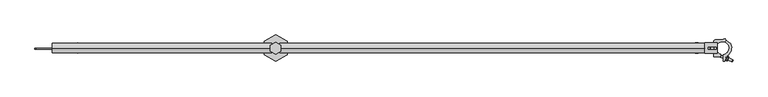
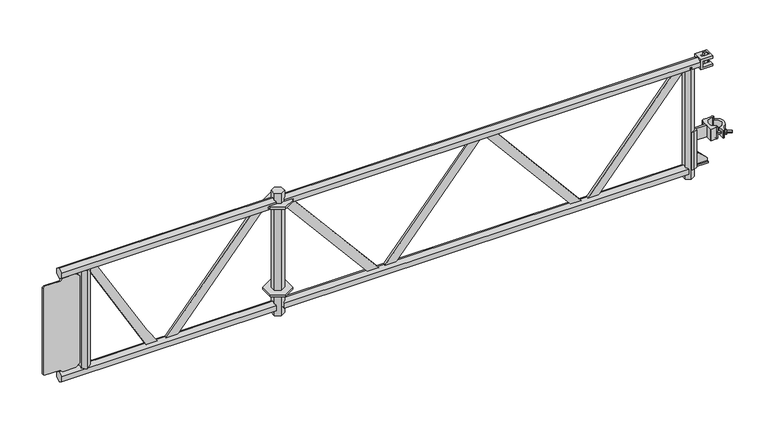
"""IFC4 building model written with IfcOpenShell, lengths in millimetres: proxy geometry, アルバトロスAK4スパン梁枠短ピン付_軽 : アルバトロスAK4スパン梁枠短ピン付_軽."""

from ifc_helpers import new_model, si_unit, point, frame, frame_2d, origin, place, context, project, spatial, polyline, circle_curve, ellipse_curve, trimmed, segment, composite_curve, outline, extrude, faceted_brep, source, transform, mapped, element, save
from ifc_brep_helpers import plane_surface, cylinder_surface, revolved_surface, advanced_brep


def generic_models_1a670a13(model_context):
    return source(origin(), model_context, "Body", "SolidModel", [
        extrude(outline(polyline([(5522.8993464, -26.5), (5477.0, -53.0), (5431.1006536, -26.5), (5431.1006536, 26.5), (5477.0, 53.0), (5522.8993464, 26.5), (5522.8993464, -26.5)])), frame((0.0, 0.0, -384.0), z_axis=(0.0, 0.0, 1.0), x_axis=(1.0, 0.0, 0.0)), (0.0, 0.0, 1.0), 8.0),
        extrude(outline(polyline([(5522.8993464, -26.5), (5477.0, -53.0), (5431.1006536, -26.5), (5431.1006536, 26.5), (5477.0, 53.0), (5522.8993464, 26.5), (5522.8993464, -26.5)])), frame((0.0, 0.0, -4.0), z_axis=(0.0, 0.0, 1.0), x_axis=(1.0, 0.0, 0.0)), (0.0, 0.0, 1.0), 8.0),
        extrude(outline(polyline([(-18.4896424, -439.325), (0.0, -428.65), (18.4896424, -439.325), (18.4896424, -460.675), (0.0, -471.35), (-18.4896424, -460.675), (-18.4896424, -439.325)])), frame((5493.3, 0.0, 0.0), z_axis=(1.0, 0.0, 0.0), x_axis=(0.0, 1.0, 0.0)), (0.0, 0.0, 1.0), 1663.7706837),
        advanced_brep(
        [(7205.5, -18.4896424, 10.675), (7205.5, -18.4896424, -10.675), (7205.5, 0.0, -21.35), (7205.5, 18.4896424, -10.675), (7205.5, 18.4896424, 10.675), (7205.5, 0.0, 21.35), (5493.3, -18.4896424, 10.675), (5493.3, 0.0, 21.35), (5493.3, 18.4896424, 10.675), (5493.3, 18.4896424, 4.5), (5493.3, -18.4896424, 4.5), (5493.3, 18.4896424, -10.675), (5493.3, 0.0, -21.35), (5493.3, -18.4896424, -10.675), (5493.3, -18.4896424, -4.5), (5493.3, 18.4896424, -4.5), (5525.5010555, -18.4896424, -4.5), (5525.5010555, 18.4896424, -4.5), (5525.5010555, -18.4896424, 4.5), (5525.5010555, 18.4896424, 4.5)],
        [
            (0, 1),
            (1, 2),
            (2, 3),
            (3, 4),
            (4, 5),
            (5, 0),
            (6, 7),
            (7, 8),
            (8, 9),
            (9, 10),
            (10, 6),
            (11, 12),
            (12, 13),
            (13, 14),
            (14, 15),
            (15, 11),
            (16, 17),
            (17, 15),
            (14, 16),
            (16, 18, circle_curve(frame((5525.5010555, -18.4896424, 0.0), z_axis=(0.0, -1.0, 0.0), x_axis=(-1.0, 0.0, 0.0)), 4.5)),
            (18, 19),
            (19, 17, circle_curve(frame((5525.5010555, 18.4896424, 0.0), z_axis=(0.0, 1.0, 0.0), x_axis=(-1.0, 0.0, 0.0)), 4.5)),
            (18, 10),
            (9, 19),
            (0, 6),
            (13, 1),
            (12, 2),
            (11, 3),
            (8, 4),
            (7, 5),
        ],
        [
            plane_surface(frame((7205.5, -18.4896424, 10.675), z_axis=(1.0, 0.0, 0.0), x_axis=(0.0, 0.0, -1.0))),
            plane_surface(frame((5493.3, -18.4896424, 10.675), z_axis=(-1.0, 0.0, 0.0), x_axis=(0.0, 0.0, 1.0))),
            plane_surface(frame((5490.5010555, -25.03115, -4.5), z_axis=(2.6608967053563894e-11, 0.0, 1.0), x_axis=(0.0, 1.0, 0.0))),
            revolved_surface(polyline([(5521.0010555, -18.4896424, 0.0), (5521.0010555, 18.4896424, 0.0)]), (5525.5010555, 25.0312, 0.0), (0.0, -1.0, 0.0)),
            plane_surface(frame((5525.5010555, -25.03115, 4.5), z_axis=(0.0, 0.0, -1.0), x_axis=(0.0, 1.0, 0.0))),
            plane_surface(frame((7205.5, -18.4896424, 10.675), z_axis=(0.0, -1.0, 0.0), x_axis=(-1.0, 0.0, 0.0))),
            plane_surface(frame((7205.5, -18.4896424, -10.675), z_axis=(0.0, -0.5000000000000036, -0.8660254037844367), x_axis=(-1.0, 0.0, 0.0))),
            plane_surface(frame((7205.5, 0.0, -21.35), z_axis=(0.0, 0.4999999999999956, -0.8660254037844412), x_axis=(-1.0, 0.0, 0.0))),
            plane_surface(frame((7205.5, 18.4896424, -10.675), z_axis=(0.0, 1.0, 0.0), x_axis=(-1.0, 0.0, 0.0))),
            plane_surface(frame((7205.5, 18.4896424, 10.675), z_axis=(0.0, 0.5000000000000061, 0.8660254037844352), x_axis=(-1.0, 0.0, 0.0))),
            plane_surface(frame((7205.5, 0.0, 21.35), z_axis=(0.0, -0.4999999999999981, 0.8660254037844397), x_axis=(-1.0, 0.0, 0.0))),
        ],
        [
            (0, [[1, 2, 3, 4, 5, 6]]),
            (1, [[7, 8, 9, 10, 11]]),
            (1, [[12, 13, 14, 15, 16]]),
            (2, [[17, 18, -15, 19]]),
            (3, [[-17, 20, 21, 22]]),
            (4, [[-21, 23, -10, 24]]),
            (5, [[-1, 25, -11, -23, -20, -19, -14, 26]]),
            (6, [[-2, -26, -13, 27]]),
            (7, [[-3, -27, -12, 28]]),
            (8, [[-4, -28, -16, -18, -22, -24, -9, 29]]),
            (9, [[-5, -29, -8, 30]]),
            (10, [[-6, -30, -7, -25]]),
        ],
    ),
        extrude(outline(polyline([(-18.4896424, -439.325), (0.0, -428.65), (18.4896424, -439.325), (18.4896424, -460.675), (0.0, -471.35), (-18.4896424, -460.675), (-18.4896424, -439.325)])), frame((4577.0, 0.0, 0.0), z_axis=(1.0, 0.0, 0.0), x_axis=(0.0, 1.0, 0.0)), (0.0, 0.0, 1.0), 883.7),
        extrude(outline(polyline([(7148.6603576, 10.675), (7167.15, 21.35), (7185.6396424, 10.675), (7185.6396424, -10.675), (7167.15, -21.35), (7148.6603576, -10.675), (7148.6603576, 10.675)])), frame((0.0, 0.0, -484.5), z_axis=(0.0, 0.0, 1.0), x_axis=(1.0, 0.0, 0.0)), (0.0, 0.0, 1.0), 484.5),
        extrude(outline(polyline([(-439.0561906, 5895.7916225), (-13.8441735, 5537.5410927), (-13.8441735, 5493.1572449), (-439.0561906, 5849.9524916), (-439.0561906, 5895.7916225)])), frame((0.0, -5.0, 0.0), z_axis=(0.0, 1.0, 0.0), x_axis=(0.0, 0.0, 1.0)), (0.0, 0.0, 1.0), 10.0),
        extrude(outline(polyline([(-439.0561906, 5053.2022813), (-13.8441735, 5411.4626882), (-13.8441735, 5365.7634358), (-439.0561906, 5007.5030289), (-439.0561906, 5053.2022813)])), frame((0.0, -5.0, 0.0), z_axis=(0.0, 1.0, 0.0), x_axis=(0.0, 0.0, 1.0)), (0.0, 0.0, 1.0), 10.0),
        extrude(outline(polyline([(-439.0561906, 5952.7023303), (-13.8441735, 6310.9627372), (-13.8441735, 6265.1137292), (-439.0561906, 5908.3184825), (-439.0561906, 5952.7023303)])), frame((0.0, -5.0, 0.0), z_axis=(0.0, 1.0, 0.0), x_axis=(0.0, 0.0, 1.0)), (0.0, 0.0, 1.0), 10.0),
        extrude(outline(polyline([(-439.0561906, 6787.8919984), (-13.8441735, 7144.6872451), (-13.8441735, 7100.3033973), (-439.0561906, 6743.5081506), (-439.0561906, 6787.8919984)])), frame((0.0, -5.0, 0.0), z_axis=(0.0, 1.0, 0.0), x_axis=(0.0, 0.0, 1.0)), (0.0, 0.0, 1.0), 10.0),
        extrude(outline(polyline([(-439.0561906, 6729.5260075), (-13.8441735, 6372.7307608), (-13.8441735, 6327.0503023), (-439.0561906, 6685.3008321), (-439.0561906, 6729.5260075)])), frame((0.0, -5.0, 0.0), z_axis=(0.0, 1.0, 0.0), x_axis=(0.0, 0.0, 1.0)), (0.0, 0.0, 1.0), 10.0),
        extrude(outline(composite_curve([segment(polyline([(-367.1676777, 4933.6340565), (-12.1775466, 4727.0076208), (-12.1775466, 4689.4205905), (-439.0561906, 4935.8790905), (-439.0561906, 4983.0382567)]), True, "CONTINUOUS"), segment(trimmed(circle_curve(frame_2d((55.4241867, 5625.5563471)), 810.7652805), [point((-439.0561906, 4983.0382567))], [point((-367.1676777, 4933.6340565))], True, "CARTESIAN"), True, "CONTINUOUS")], self_intersect=False)), frame((0.0, -5.0, 0.0), z_axis=(0.0, 1.0, 0.0), x_axis=(0.0, 0.0, 1.0)), (0.0, 0.0, 1.0), 10.0),
        extrude(outline(polyline([(4660.6603576, 10.675), (4679.15, 21.35), (4697.6396424, 10.675), (4697.6396424, -10.675), (4679.15, -21.35), (4660.6603576, -10.675), (4660.6603576, 10.675)])), frame((0.0, 0.0, -438.1500095), z_axis=(0.0, 0.0, 1.0), x_axis=(1.0, 0.0, 0.0)), (0.0, 0.0, 1.0), 426.300019),
        extrude(outline(polyline([(-21.35, 4587.65), (-31.5, 4577.5), (-31.5, 4512.5), (-36.5, 4507.5), (-413.5, 4507.5), (-418.5, 4512.5), (-418.5, 4577.5), (-428.65, 4587.65), (-428.65, 4642.35), (-413.35, 4657.65), (-36.65, 4657.65), (-21.35, 4642.35), (-21.35, 4587.65)])), frame((0.0, -5.0, 0.0), z_axis=(0.0, 1.0, 0.0), x_axis=(0.0, 0.0, 1.0)), (0.0, 0.0, 1.0), 5.0),
        extrude(outline(polyline([(7179.7665977, -21.3785293), (7167.1005859, -21.3785293), (7185.6396424, -10.675), (7185.6396424, 10.675), (7167.15, 21.35), (7179.8160119, 21.35), (7193.0, 13.7382209), (7193.0, -13.7382209), (7179.7665977, -21.3785293)])), frame((0.0, 0.0, -446.0), z_axis=(0.0, 0.0, 1.0), x_axis=(1.0, 0.0, 0.0)), (0.0, 0.0, 1.0), 163.0),
        advanced_brep(
        [(7240.760376, -32.957563, -285.0), (7242.260376, -34.457563, -285.0), (7265.006281, -34.457563, -285.0), (7269.006281, -30.457563, -285.0), (7269.006281, -24.9507606, -285.0), (7282.692228, 25.5741772, -285.0), (7288.994413, 31.7276249, -285.0), (7287.8975801, 37.2892778, -285.0), (7286.6376322, 38.0561272, -285.0), (7273.9922, 34.384378, -285.0), (7262.838406, 32.797825, -285.0), (7248.260376, 32.797825, -285.0), (7240.760376, 25.297825, -285.0), (7240.760376, -32.957563, -335.0), (7240.760376, 25.297825, -335.0), (7248.260376, 32.797825, -335.0), (7262.838406, 32.797825, -335.0), (7273.9922001, 34.3843784, -335.0), (7286.6376322, 38.0561272, -335.0), (7287.8975799, 37.2892777, -335.0), (7288.994413, 31.7276249, -335.0), (7282.6904713, 25.5745678, -335.0), (7269.006281, -24.9507606, -335.0), (7269.006281, -30.457563, -335.0), (7265.006281, -34.457563, -335.0), (7242.260376, -34.457563, -335.0)],
        [
            (0, 1, circle_curve(frame((7242.260376, -32.957563, -285.0), z_axis=(0.0, 0.0, 1.0), x_axis=(1.0, 0.0, 0.0)), 1.5)),
            (1, 2),
            (2, 3, circle_curve(frame((7265.006281, -30.457563, -285.0), z_axis=(0.0, 0.0, 1.0), x_axis=(1.0, 0.0, 0.0)), 4.0)),
            (3, 4),
            (4, 5, circle_curve(frame((7277.0, 0.0, -285.0), z_axis=(0.0, 0.0, -1.0), x_axis=(1.0, 0.0, 0.0)), 26.2)),
            (5, 6, circle_curve(frame((7283.833073, 30.709739, -285.0), z_axis=(0.0, 0.0, 1.0), x_axis=(1.0, 0.0, 0.0)), 5.260753)),
            (6, 7),
            (7, 8, circle_curve(frame((7286.916477, 37.095791, -285.0), z_axis=(0.0, 0.0, 1.0), x_axis=(1.0, 0.0, 0.0)), 1.0)),
            (8, 9),
            (9, 10, circle_curve(frame((7262.838406, 72.797825, -285.0), z_axis=(0.0, 0.0, -1.0), x_axis=(1.0, 0.0, 0.0)), 40.0)),
            (10, 11),
            (11, 12, circle_curve(frame((7248.260376, 25.297825, -285.0), z_axis=(0.0, 0.0, 1.0), x_axis=(1.0, 0.0, 0.0)), 7.5)),
            (12, 0),
            (13, 14),
            (14, 15, circle_curve(frame((7248.260376, 25.297825, -335.0), z_axis=(0.0, 0.0, -1.0), x_axis=(1.0, 0.0, 0.0)), 7.5)),
            (15, 16),
            (16, 17, circle_curve(frame((7262.838406, 72.797825, -335.0), z_axis=(0.0, 0.0, 1.0), x_axis=(1.0, 0.0, 0.0)), 40.0)),
            (17, 18),
            (18, 19, circle_curve(frame((7286.916477, 37.095791, -335.0), z_axis=(0.0, 0.0, -1.0), x_axis=(1.0, 0.0, 0.0)), 1.0)),
            (19, 20),
            (20, 21, circle_curve(frame((7283.833073, 30.709739, -335.0), z_axis=(0.0, 0.0, -1.0), x_axis=(1.0, 0.0, 0.0)), 5.260753)),
            (21, 22, circle_curve(frame((7277.0, 0.0, -335.0), z_axis=(0.0, 0.0, 1.0), x_axis=(1.0, 0.0, 0.0)), 26.2)),
            (22, 23),
            (23, 24, circle_curve(frame((7265.006281, -30.457563, -335.0), z_axis=(0.0, 0.0, -1.0), x_axis=(1.0, 0.0, 0.0)), 4.0)),
            (24, 25),
            (25, 13, circle_curve(frame((7242.260376, -32.957563, -335.0), z_axis=(0.0, 0.0, -1.0), x_axis=(1.0, 0.0, 0.0)), 1.5)),
            (12, 14),
            (13, 0),
            (11, 15),
            (10, 16),
            (9, 17),
            (8, 18),
            (7, 19),
            (6, 20),
            (5, 21),
            (4, 22),
            (3, 23),
            (2, 24),
            (1, 25),
        ],
        [
            plane_surface(frame((7243.760376, -32.957563, -285.0), z_axis=(0.0, 0.0, 1.0), x_axis=(0.0, 1.0, 0.0))),
            plane_surface(frame((7243.760376, -32.957563, -335.0), z_axis=(0.0, 0.0, -1.0), x_axis=(0.0, -1.0, 0.0))),
            plane_surface(frame((7240.760376, 25.297825, -285.0), z_axis=(-1.0, 0.0, 0.0), x_axis=(0.0, 0.0, -1.0))),
            cylinder_surface(frame((7248.260376, 25.297825, -335.0), z_axis=(0.0, 0.0, 1.0), x_axis=(1.0, 0.0, 0.0)), 7.5),
            plane_surface(frame((7262.838406, 32.797825, -285.0), z_axis=(0.0, 1.0, 0.0), x_axis=(0.0, 0.0, -1.0))),
            revolved_surface(polyline([(7302.838406, 72.797825, -335.0), (7302.838406, 72.797825, -285.0)]), (7262.838406, 72.797825, -335.0), (0.0, 0.0, -1.0)),
            plane_surface(frame((7286.6376322, 38.0561272, -285.0), z_axis=(-0.27884484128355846, 0.9603361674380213, 0.0), x_axis=(0.0, 0.0, -1.0))),
            cylinder_surface(frame((7286.916477, 37.095791, -335.0), z_axis=(0.0, 0.0, 1.0), x_axis=(1.0, 0.0, 0.0)), 1.0),
            plane_surface(frame((7288.994413, 31.7276249, -285.0), z_axis=(0.9811028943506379, 0.19348671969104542, 0.0), x_axis=(0.0, 0.0, -1.0))),
            cylinder_surface(frame((7283.833073, 30.709739, -335.0), z_axis=(0.0, 0.0, 1.0), x_axis=(1.0, 0.0, 0.0)), 5.260753),
            revolved_surface(polyline([(7303.2, 0.0, -335.0), (7303.2, 0.0, -285.0)]), (7277.0, 0.0, -335.0), (0.0, 0.0, -1.0)),
            plane_surface(frame((7269.006281, -30.457563, -285.0), z_axis=(1.0, 0.0, 0.0), x_axis=(0.0, 0.0, -1.0))),
            cylinder_surface(frame((7265.006281, -30.457563, -335.0), z_axis=(0.0, 0.0, 1.0), x_axis=(1.0, 0.0, 0.0)), 4.0),
            plane_surface(frame((7242.260376, -34.457563, -285.0), z_axis=(0.0, -1.0, 0.0), x_axis=(0.0, 0.0, -1.0))),
            cylinder_surface(frame((7242.260376, -32.957563, -335.0), z_axis=(0.0, 0.0, 1.0), x_axis=(1.0, 0.0, 0.0)), 1.5),
        ],
        [
            (0, [[1, 2, 3, 4, 5, 6, 7, 8, 9, 10, 11, 12, 13]]),
            (1, [[14, 15, 16, 17, 18, 19, 20, 21, 22, 23, 24, 25, 26]]),
            (2, [[-13, 27, -14, 28]]),
            (3, [[-12, 29, -15, -27]]),
            (4, [[-11, 30, -16, -29]]),
            (5, [[-10, 31, -17, -30]]),
            (6, [[-9, 32, -18, -31]]),
            (7, [[-8, 33, -19, -32]]),
            (8, [[-7, 34, -20, -33]]),
            (9, [[-6, 35, -21, -34]]),
            (10, [[-5, 36, -22, -35]]),
            (11, [[-4, 37, -23, -36]]),
            (12, [[-3, 38, -24, -37]]),
            (13, [[-2, 39, -25, -38]]),
            (14, [[-1, -28, -26, -39]]),
        ],
    ),
        advanced_brep(
        [(7279.953176, -26.0330319, -294.5), (7279.953176, -53.015831, -294.5), (7283.685439, -53.015831, -294.5), (7285.5386472, -51.7679076, -294.5), (7293.4637483, -32.2394943, -294.5), (7309.0794389, 16.7734791, -294.5), (7288.6296233, 33.5773448, -294.5), (7288.994413, 31.7276248, -294.5), (7282.6904713, 25.5745678, -294.5), (7279.953176, -26.0330319, -325.5), (7282.6904714, 25.5745681, -325.5), (7288.994413, 31.7276248, -325.5), (7288.6296233, 33.5773448, -325.5), (7309.0794389, 16.7734791, -325.5), (7293.4637483, -32.2394943, -325.5), (7285.5386472, -51.7679076, -325.5), (7283.685439, -53.015831, -325.5), (7279.953176, -53.015831, -325.5)],
        [
            (0, 1),
            (1, 2),
            (2, 3, circle_curve(frame((7283.685439, -51.015831, -294.5), z_axis=(0.0, 0.0, 1.0), x_axis=(1.0, 0.0, 0.0)), 2.0)),
            (3, 4),
            (4, 5, circle_curve(frame((7277.0, 0.0, -294.5), z_axis=(0.0, 0.0, 1.0), x_axis=(1.0, 0.0, 0.0)), 36.2)),
            (5, 6),
            (6, 7),
            (7, 8, circle_curve(frame((7283.833073, 30.709739, -294.5), z_axis=(0.0, 0.0, -1.0), x_axis=(1.0, 0.0, 0.0)), 5.260753)),
            (8, 0, circle_curve(frame((7277.0, 0.0, -294.5), z_axis=(0.0, 0.0, -1.0), x_axis=(1.0, 0.0, 0.0)), 26.2)),
            (9, 10, circle_curve(frame((7277.0, 0.0, -325.5), z_axis=(0.0, 0.0, 1.0), x_axis=(1.0, 0.0, 0.0)), 26.2)),
            (10, 11, circle_curve(frame((7283.833073, 30.709739, -325.5), z_axis=(0.0, 0.0, 1.0), x_axis=(1.0, 0.0, 0.0)), 5.260753)),
            (11, 12),
            (12, 13),
            (13, 14, circle_curve(frame((7277.0, 0.0, -325.5), z_axis=(0.0, 0.0, -1.0), x_axis=(1.0, 0.0, 0.0)), 36.2)),
            (14, 15),
            (15, 16, circle_curve(frame((7283.685439, -51.015831, -325.5), z_axis=(0.0, 0.0, -1.0), x_axis=(1.0, 0.0, 0.0)), 2.0)),
            (16, 17),
            (17, 9),
            (8, 10),
            (9, 0),
            (7, 11),
            (6, 12),
            (5, 13),
            (4, 14),
            (3, 15),
            (2, 16),
            (1, 17),
        ],
        [
            plane_surface(frame((7279.953176, -53.015831, -294.5), z_axis=(0.0, 0.0, 1.0), x_axis=(0.0, -1.0, 0.0))),
            plane_surface(frame((7279.953176, -53.015831, -325.5), z_axis=(0.0, 0.0, -1.0), x_axis=(0.0, 1.0, 0.0))),
            revolved_surface(polyline([(7303.2, 0.0, -325.5), (7303.2, 0.0, -294.5)]), (7277.0, 0.0, -325.5), (0.0, 0.0, -1.0)),
            revolved_surface(polyline([(7289.093825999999, 30.709739, -325.5), (7289.093825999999, 30.709739, -294.5)]), (7283.833073, 30.709739, -325.5), (0.0, 0.0, -1.0)),
            plane_surface(frame((7288.6296233, 33.5773448, -294.5), z_axis=(-0.9811028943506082, -0.19348671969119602, 0.0), x_axis=(0.0, 0.0, -1.0))),
            plane_surface(frame((7309.0794389, 16.7734791, -294.5), z_axis=(0.6348703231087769, 0.7726187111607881, 0.0), x_axis=(0.0, 0.0, -1.0))),
            cylinder_surface(frame((7277.0, 0.0, -325.5), z_axis=(0.0, 0.0, 1.0), x_axis=(1.0, 0.0, 0.0)), 36.2),
            plane_surface(frame((7285.5386472, -51.7679076, -294.5), z_axis=(0.9266041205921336, -0.37603830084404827, 0.0), x_axis=(0.0, 0.0, -1.0))),
            cylinder_surface(frame((7283.685439, -51.015831, -325.5), z_axis=(0.0, 0.0, 1.0), x_axis=(1.0, 0.0, 0.0)), 2.0),
            plane_surface(frame((7279.953176, -53.015831, -294.5), z_axis=(0.0, -1.0, 0.0), x_axis=(0.0, 0.0, -1.0))),
            plane_surface(frame((7279.953176, -26.0330319, -294.5), z_axis=(-1.0, 0.0, 0.0), x_axis=(0.0, 0.0, -1.0))),
        ],
        [
            (0, [[1, 2, 3, 4, 5, 6, 7, 8, 9]]),
            (1, [[10, 11, 12, 13, 14, 15, 16, 17, 18]]),
            (2, [[-9, 19, -10, 20]]),
            (3, [[-8, 21, -11, -19]]),
            (4, [[-7, 22, -12, -21]]),
            (5, [[-6, 23, -13, -22]]),
            (6, [[-5, 24, -14, -23]]),
            (7, [[-4, 25, -15, -24]]),
            (8, [[-3, 26, -16, -25]]),
            (9, [[-2, 27, -17, -26]]),
            (10, [[-1, -20, -18, -27]]),
        ],
    ),
        advanced_brep(
        [(7291.963329, -35.9367148, -310.0), (7288.5789843, -44.2761518, -310.0), (7264.384787, -34.457563, -310.0), (7267.7691317, -26.118126, -310.0), (7266.0769593, -30.2878445, -310.0), (7318.069279, -51.3875818, -310.0), (7316.753145, -54.630696, -310.0), (7319.385413, -48.1444675, -310.0), (7315.450502, -55.181261, -310.0), (7318.8348462, -46.8418252, -310.0), (7297.8450237, -48.036535, -310.0), (7301.229369, -39.6970964, -310.0), (7296.9989379, -50.1213932, -310.0), (7302.0754547, -37.6122381, -310.0), (7295.2262473, -51.8302141, -310.0), (7301.9949365, -35.1513404, -310.0), (7288.7400193, -49.1979451, -310.0), (7295.5087077, -32.5190735, -310.0), (7287.987942, -51.051155, -310.0), (7296.2607849, -30.6658636, -310.0), (7286.1347363, -50.2990724, -310.0), (7294.4075743, -29.913793, -310.0)],
        [
            (0, 1, circle_curve(frame((7290.2711567, -40.1064333, -310.0), z_axis=(-0.9266041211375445, 0.3760382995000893, 0.0), x_axis=(-0.3760382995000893, -0.9266041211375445, 0.0)), 4.4999999)),
            (1, 2),
            (2, 3, circle_curve(frame((7266.0769593, -30.2878445, -310.0), z_axis=(0.9266041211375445, -0.3760382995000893, 0.0), x_axis=(-0.3760382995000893, -0.9266041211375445, 0.0)), 4.4999999)),
            (3, 0),
            (1, 0, circle_curve(frame((7290.2711567, -40.1064333, -310.0), z_axis=(-0.9266041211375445, 0.3760382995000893, 0.0), x_axis=(-0.3760382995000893, -0.9266041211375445, 0.0)), 4.4999999)),
            (3, 2, circle_curve(frame((7266.0769593, -30.2878445, -310.0), z_axis=(0.9266041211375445, -0.3760382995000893, 0.0), x_axis=(-0.3760382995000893, -0.9266041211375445, 0.0)), 4.4999999)),
            (2, 4),
            (4, 3),
            (5, 6),
            (6, 7, circle_curve(frame((7318.069279, -51.3875817, -310.0), z_axis=(0.9266041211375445, -0.3760382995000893, 0.0), x_axis=(-0.3760382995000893, -0.9266041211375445, 0.0)), 3.4999998)),
            (7, 5),
            (7, 6, circle_curve(frame((7318.069279, -51.3875817, -310.0), z_axis=(0.9266041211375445, -0.3760382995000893, 0.0), x_axis=(-0.3760382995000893, -0.9266041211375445, 0.0)), 3.4999998)),
            (6, 8),
            (8, 9, circle_curve(frame((7317.1426741, -51.0115431, -310.0), z_axis=(0.9266041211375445, -0.3760382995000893, 0.0), x_axis=(-0.3760382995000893, -0.9266041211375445, 0.0)), 4.4999993)),
            (9, 7),
            (9, 8, circle_curve(frame((7317.1426741, -51.0115431, -310.0), z_axis=(0.9266041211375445, -0.3760382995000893, 0.0), x_axis=(-0.3760382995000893, -0.9266041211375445, 0.0)), 4.4999993)),
            (8, 10),
            (10, 11, circle_curve(frame((7299.5371964, -43.8668157, -310.0), z_axis=(0.9266041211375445, -0.3760382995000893, 0.0), x_axis=(-0.3760382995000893, -0.9266041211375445, 0.0)), 4.5000008)),
            (11, 9),
            (11, 10, circle_curve(frame((7299.5371964, -43.8668157, -310.0), z_axis=(0.9266041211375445, -0.3760382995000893, 0.0), x_axis=(-0.3760382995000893, -0.9266041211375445, 0.0)), 4.5000008)),
            (10, 12),
            (12, 13, circle_curve(frame((7299.5371963, -43.8668157, -310.0), z_axis=(0.9266041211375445, -0.3760382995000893, 0.0), x_axis=(-0.3760382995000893, -0.9266041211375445, 0.0)), 6.7499997)),
            (13, 11),
            (13, 12, circle_curve(frame((7299.5371963, -43.8668157, -310.0), z_axis=(0.9266041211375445, -0.3760382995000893, 0.0), x_axis=(-0.3760382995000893, -0.9266041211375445, 0.0)), 6.7499997)),
            (12, 14, circle_curve(frame((7294.190169, -48.981527, -310.0), z_axis=(0.0, 0.0, -1.0000000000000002), x_axis=(1.0000000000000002, 0.0, 0.0)), 3.03125)),
            (14, 15, circle_curve(frame((7298.6105919, -43.4907772, -310.0), z_axis=(0.9266041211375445, -0.3760382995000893, 0.0), x_axis=(-0.3760382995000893, -0.9266041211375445, 0.0)), 8.9999998)),
            (15, 13, circle_curve(frame((7299.2666858, -36.472372, -310.0), z_axis=(0.0, 0.0, -1.0000000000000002), x_axis=(0.7171903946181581, -0.6968772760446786, 0.0)), 3.03125)),
            (15, 14, circle_curve(frame((7298.6105919, -43.4907772, -310.0), z_axis=(0.9266041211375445, -0.3760382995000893, 0.0), x_axis=(-0.3760382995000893, -0.9266041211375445, 0.0)), 8.9999998)),
            (14, 16),
            (16, 17, circle_curve(frame((7292.1243635, -40.8585093, -310.0), z_axis=(0.9266041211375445, -0.3760382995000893, 0.0), x_axis=(-0.3760382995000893, -0.9266041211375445, 0.0)), 8.9999986)),
            (17, 15),
            (17, 16, circle_curve(frame((7292.1243635, -40.8585093, -310.0), z_axis=(0.9266041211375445, -0.3760382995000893, 0.0), x_axis=(-0.3760382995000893, -0.9266041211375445, 0.0)), 8.9999986)),
            (16, 18),
            (18, 19, circle_curve(frame((7292.1243634, -40.8585093, -310.0), z_axis=(0.9266041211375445, -0.3760382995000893, 0.0), x_axis=(-0.3760382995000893, -0.9266041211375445, 0.0)), 11.0000004)),
            (19, 17),
            (19, 18, circle_curve(frame((7292.1243634, -40.8585093, -310.0), z_axis=(0.9266041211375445, -0.3760382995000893, 0.0), x_axis=(-0.3760382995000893, -0.9266041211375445, 0.0)), 11.0000004)),
            (18, 20),
            (20, 21, circle_curve(frame((7290.2711553, -40.1064327, -310.0), z_axis=(0.9266041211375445, -0.3760382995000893, 0.0), x_axis=(-0.3760382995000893, -0.9266041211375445, 0.0)), 10.9999939)),
            (21, 19),
            (21, 20, circle_curve(frame((7290.2711553, -40.1064327, -310.0), z_axis=(0.9266041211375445, -0.3760382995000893, 0.0), x_axis=(-0.3760382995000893, -0.9266041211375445, 0.0)), 10.9999939)),
            (20, 1),
            (0, 21),
        ],
        [
            cylinder_surface(frame((7266.0769593, -30.2878445, -310.0), z_axis=(0.9266041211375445, -0.3760382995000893, 0.0), x_axis=(-0.3760382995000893, -0.9266041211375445, 0.0)), 4.4999999),
            plane_surface(frame((7266.0769593, -30.2878445, -310.0), z_axis=(-0.9266041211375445, 0.3760382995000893, 0.0), x_axis=(-0.3760382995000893, -0.9266041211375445, 0.0))),
            plane_surface(frame((7318.069279, -51.3875817, -310.0), z_axis=(0.9266041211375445, -0.3760382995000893, 0.0), x_axis=(-0.3760382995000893, -0.9266041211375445, 0.0))),
            revolved_surface(polyline([(7315.450502, -55.181261, -310.0), (7316.753145, -54.630696, -310.0)]), (7266.0769593, -30.2878445, -310.0), (0.9266041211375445, -0.3760382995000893, 0.0)),
            cylinder_surface(frame((7266.0769593, -30.2878445, -310.0), z_axis=(0.9266041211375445, -0.3760382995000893, 0.0), x_axis=(-0.3760382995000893, -0.9266041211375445, 0.0)), 4.5000008),
            plane_surface(frame((7299.5371963, -43.8668157, -310.0), z_axis=(0.9266041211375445, -0.3760382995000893, 0.0), x_axis=(-0.3760382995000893, -0.9266041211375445, 0.0))),
            revolved_surface(trimmed(ellipse_curve(frame((7294.190169, -48.981527, -310.0), z_axis=(0.0, 0.0, 1.0000000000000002), x_axis=(1.0000000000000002, 0.0, 0.0)), 3.03125, 3.03125), [point((7295.2262473, -51.8302141, -310.0))], [point((7296.9989377, -50.1213931, -310.0))], True, "CARTESIAN"), (7266.0769593, -30.2878445, -310.0), (0.9266041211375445, -0.3760382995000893, 0.0)),
            cylinder_surface(frame((7266.0769593, -30.2878445, -310.0), z_axis=(0.9266041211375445, -0.3760382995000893, 0.0), x_axis=(-0.3760382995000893, -0.9266041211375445, 0.0)), 8.9999986),
            plane_surface(frame((7292.1243634, -40.8585093, -310.0), z_axis=(0.9266041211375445, -0.3760382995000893, 0.0), x_axis=(-0.3760382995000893, -0.9266041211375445, 0.0))),
            cylinder_surface(frame((7266.0769593, -30.2878445, -310.0), z_axis=(0.9266041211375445, -0.3760382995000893, 0.0), x_axis=(-0.3760382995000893, -0.9266041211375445, 0.0)), 10.9999939),
            plane_surface(frame((7290.2711567, -40.1064333, -310.0), z_axis=(-0.9266041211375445, 0.3760382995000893, 0.0), x_axis=(-0.3760382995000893, -0.9266041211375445, 0.0))),
        ],
        [
            (0, [[1, 2, 3, 4]]),
            (0, [[5, -4, 6, -2]]),
            (1, [[-3, 7, 8]]),
            (1, [[-6, -8, -7]]),
            (2, [[9, 10, 11]]),
            (2, [[-11, 12, -9]]),
            (3, [[-10, 13, 14, 15]]),
            (3, [[-12, -15, 16, -13]]),
            (4, [[-14, 17, 18, 19]]),
            (4, [[-16, -19, 20, -17]]),
            (5, [[-18, 21, 22, 23]]),
            (5, [[-20, -23, 24, -21]]),
            (6, [[-22, 25, 26, 27]]),
            (6, [[-24, -27, 28, -25]]),
            (7, [[-26, 29, 30, 31]]),
            (7, [[-28, -31, 32, -29]]),
            (8, [[-30, 33, 34, 35]]),
            (8, [[-32, -35, 36, -33]]),
            (9, [[-34, 37, 38, 39]]),
            (9, [[-36, -39, 40, -37]]),
            (10, [[-38, 41, -1, 42]]),
            (10, [[-40, -42, -5, -41]]),
        ],
    ),
        advanced_brep(
        [(7283.833072, 30.709739, -287.5), (7281.3330722, 30.709739, -289.0), (7286.3330718, 30.709739, -289.0), (7279.833072, 30.709739, -289.0), (7287.833072, 30.709739, -289.0), (7279.833072, 30.709739, -290.0), (7287.833072, 30.709739, -290.0), (7283.833072, 30.709739, -290.0)],
        [
            (0, 1, circle_curve(frame((7283.833072, 30.709739, -290.333333), z_axis=(0.0, -1.0, 0.0), x_axis=(-1.0, 0.0, 0.0)), 2.833333)),
            (1, 2, circle_curve(frame((7283.833072, 30.709739, -289.0), z_axis=(0.0, 0.0, 1.0), x_axis=(-1.0, 0.0, 0.0)), 2.4999998)),
            (2, 0, circle_curve(frame((7283.833072, 30.709739, -290.333333), z_axis=(0.0, -1.0, 0.0), x_axis=(1.0, 0.0, 0.0)), 2.833333)),
            (2, 1, circle_curve(frame((7283.833072, 30.709739, -289.0), z_axis=(0.0, 0.0, 1.0), x_axis=(-1.0, 0.0, 0.0)), 2.4999998)),
            (1, 3),
            (3, 4, circle_curve(frame((7283.833072, 30.709739, -289.0), z_axis=(0.0, 0.0, 1.0), x_axis=(-1.0, 0.0, 0.0)), 4.0)),
            (4, 2),
            (4, 3, circle_curve(frame((7283.833072, 30.709739, -289.0), z_axis=(0.0, 0.0, 1.0), x_axis=(-1.0, 0.0, 0.0)), 4.0)),
            (3, 5),
            (5, 6, circle_curve(frame((7283.833072, 30.709739, -290.0), z_axis=(0.0, 0.0, 1.0), x_axis=(-1.0, 0.0, 0.0)), 4.0)),
            (6, 4),
            (6, 5, circle_curve(frame((7283.833072, 30.709739, -290.0), z_axis=(0.0, 0.0, 1.0), x_axis=(-1.0, 0.0, 0.0)), 4.0)),
            (5, 7),
            (7, 6),
        ],
        [
            revolved_surface(trimmed(ellipse_curve(frame((7283.833072, 30.709739, -290.333333), z_axis=(0.0, 1.0, 0.0), x_axis=(-1.0, 0.0, 0.0)), 2.833333, 2.833333), [point((7281.3330722, 30.709739, -289.0))], [point((7283.833072, 30.709739, -287.5))], True, "CARTESIAN"), (7283.833072, 30.709739, -290.0), (0.0, 0.0, 1.0)),
            plane_surface(frame((7283.833072, 30.709739, -289.0), z_axis=(0.0, 0.0, 1.0), x_axis=(-1.0, 0.0, 0.0))),
            cylinder_surface(frame((7283.833072, 30.709739, -290.0), z_axis=(0.0, 0.0, 1.0), x_axis=(-1.0, 0.0, 0.0)), 4.0),
            plane_surface(frame((7283.833072, 30.709739, -290.0), z_axis=(0.0, 0.0, -1.0), x_axis=(-1.0, 0.0, 0.0))),
        ],
        [
            (0, [[1, 2, 3]]),
            (0, [[-3, 4, -1]]),
            (1, [[-2, 5, 6, 7]]),
            (1, [[-4, -7, 8, -5]]),
            (2, [[-6, 9, 10, 11]]),
            (2, [[-8, -11, 12, -9]]),
            (3, [[-10, 13, 14]]),
            (3, [[-12, -14, -13]]),
        ],
    ),
        advanced_brep(
        [(7283.833072, 30.709739, -330.0), (7279.833072, 30.709739, -330.0), (7287.833072, 30.709739, -330.0), (7279.833072, 30.709739, -331.0), (7287.833072, 30.709739, -331.0), (7281.3330722, 30.709739, -331.0), (7286.3330718, 30.709739, -331.0), (7283.833072, 30.709739, -332.5)],
        [
            (0, 1),
            (1, 2, circle_curve(frame((7283.833072, 30.709739, -330.0), z_axis=(0.0, 0.0, 1.0), x_axis=(-1.0, 0.0, 0.0)), 4.0)),
            (2, 0),
            (2, 1, circle_curve(frame((7283.833072, 30.709739, -330.0), z_axis=(0.0, 0.0, 1.0), x_axis=(-1.0, 0.0, 0.0)), 4.0)),
            (1, 3),
            (3, 4, circle_curve(frame((7283.833072, 30.709739, -331.0), z_axis=(0.0, 0.0, 1.0), x_axis=(-1.0, 0.0, 0.0)), 4.0)),
            (4, 2),
            (4, 3, circle_curve(frame((7283.833072, 30.709739, -331.0), z_axis=(0.0, 0.0, 1.0), x_axis=(-1.0, 0.0, 0.0)), 4.0)),
            (3, 5),
            (5, 6, circle_curve(frame((7283.833072, 30.709739, -331.0), z_axis=(0.0, 0.0, 1.0), x_axis=(-1.0, 0.0, 0.0)), 2.4999998)),
            (6, 4),
            (6, 5, circle_curve(frame((7283.833072, 30.709739, -331.0), z_axis=(0.0, 0.0, 1.0), x_axis=(-1.0, 0.0, 0.0)), 2.4999998)),
            (5, 7, circle_curve(frame((7283.833072, 30.709739, -329.666667), z_axis=(0.0, -1.0, 0.0), x_axis=(-1.0, 0.0, 0.0)), 2.833333)),
            (7, 6, circle_curve(frame((7283.833072, 30.709739, -329.666667), z_axis=(0.0, -1.0, 0.0), x_axis=(1.0, 0.0, 0.0)), 2.833333)),
        ],
        [
            plane_surface(frame((7283.833072, 30.709739, -330.0), z_axis=(0.0, 0.0, 1.0), x_axis=(-1.0, 0.0, 0.0))),
            cylinder_surface(frame((7283.833072, 30.709739, -290.0), z_axis=(0.0, 0.0, 1.0), x_axis=(-1.0, 0.0, 0.0)), 4.0),
            plane_surface(frame((7283.833072, 30.709739, -331.0), z_axis=(0.0, 0.0, -1.0), x_axis=(-1.0, 0.0, 0.0))),
            revolved_surface(trimmed(ellipse_curve(frame((7283.833072, 30.709739, -329.666667), z_axis=(0.0, 1.0, 0.0), x_axis=(-1.0, 0.0, 0.0)), 2.833333, 2.833333), [point((7283.833072, 30.709739, -332.5))], [point((7281.3330722, 30.709739, -331.0))], True, "CARTESIAN"), (7283.833072, 30.709739, -290.0), (0.0, 0.0, 1.0)),
        ],
        [
            (0, [[1, 2, 3]]),
            (0, [[-3, 4, -1]]),
            (1, [[-2, 5, 6, 7]]),
            (1, [[-4, -7, 8, -5]]),
            (2, [[-6, 9, 10, 11]]),
            (2, [[-8, -11, 12, -9]]),
            (3, [[-10, 13, 14]]),
            (3, [[-12, -14, -13]]),
        ],
    ),
        advanced_brep(
        [(7263.9085379, -24.359331, -288.8026573), (7263.9085379, -34.457563, -288.8026573), (7263.9085379, -33.408447, -288.8026573), (7263.9085379, -25.408447, -288.8026573), (7263.9085379, -33.408447, -287.8026573), (7263.9085379, -25.408447, -287.8026573), (7263.9085379, -31.9084466, -287.8026573), (7263.9085379, -26.9084474, -287.8026573), (7263.9085379, -29.408447, -286.6020463), (7263.9085379, -29.408447, -333.8828615), (7263.9085379, -31.9084466, -332.6822505), (7263.9085379, -26.9084474, -332.6822505), (7263.9085379, -33.408447, -332.6822505), (7263.9085379, -25.408447, -332.6822505), (7263.9085379, -33.408447, -331.6822505), (7263.9085379, -25.408447, -331.6822505), (7263.9085379, -34.457563, -331.6822505), (7263.9085379, -24.359331, -331.6822505)],
        [
            (0, 1, circle_curve(frame((7263.9085379, -29.408447, -288.8026573), z_axis=(0.0, 0.0, 1.0), x_axis=(0.0, -1.0, 0.0)), 5.049116)),
            (1, 2),
            (2, 3, circle_curve(frame((7263.9085379, -29.408447, -288.8026573), z_axis=(0.0, 0.0, -1.0), x_axis=(0.0, -1.0, 0.0)), 4.0)),
            (3, 0),
            (1, 0, circle_curve(frame((7263.9085379, -29.408447, -288.8026573), z_axis=(0.0, 0.0, 1.0), x_axis=(0.0, -1.0, 0.0)), 5.049116)),
            (3, 2, circle_curve(frame((7263.9085379, -29.408447, -288.8026573), z_axis=(0.0, 0.0, -1.0), x_axis=(0.0, -1.0, 0.0)), 4.0)),
            (2, 4),
            (4, 5, circle_curve(frame((7263.9085379, -29.408447, -287.8026573), z_axis=(0.0, 0.0, -1.0), x_axis=(0.0, -1.0, 0.0)), 4.0)),
            (5, 3),
            (5, 4, circle_curve(frame((7263.9085379, -29.408447, -287.8026573), z_axis=(0.0, 0.0, -1.0), x_axis=(0.0, -1.0, 0.0)), 4.0)),
            (4, 6),
            (6, 7, circle_curve(frame((7263.9085379, -29.408447, -287.8026573), z_axis=(0.0, 0.0, -1.0), x_axis=(0.0, -1.0, 0.0)), 2.4999996)),
            (7, 5),
            (7, 6, circle_curve(frame((7263.9085379, -29.408447, -287.8026573), z_axis=(0.0, 0.0, -1.0), x_axis=(0.0, -1.0, 0.0)), 2.4999996)),
            (6, 8, circle_curve(frame((7263.9085379, -29.408447, -289.8051923), z_axis=(-1.0, 0.0, 0.0), x_axis=(0.0, 0.0, 1.0)), 3.203146)),
            (8, 7, circle_curve(frame((7263.9085379, -29.408447, -289.8051923), z_axis=(-1.0, 0.0, 0.0), x_axis=(0.0, 0.0, 1.0)), 3.203146)),
            (9, 10, circle_curve(frame((7263.9085379, -29.408447, -330.6797155), z_axis=(-1.0, 0.0, 0.0), x_axis=(0.0, 0.0, -1.0)), 3.203146)),
            (10, 11, circle_curve(frame((7263.9085379, -29.408447, -332.6822505), z_axis=(0.0, 0.0, -1.0), x_axis=(0.0, -1.0, 0.0)), 2.4999996)),
            (11, 9, circle_curve(frame((7263.9085379, -29.408447, -330.6797155), z_axis=(-1.0, 0.0, 0.0), x_axis=(0.0, 0.0, -1.0)), 3.203146)),
            (11, 10, circle_curve(frame((7263.9085379, -29.408447, -332.6822505), z_axis=(0.0, 0.0, -1.0), x_axis=(0.0, -1.0, 0.0)), 2.4999996)),
            (10, 12),
            (12, 13, circle_curve(frame((7263.9085379, -29.408447, -332.6822505), z_axis=(0.0, 0.0, -1.0), x_axis=(0.0, -1.0, 0.0)), 4.0)),
            (13, 11),
            (13, 12, circle_curve(frame((7263.9085379, -29.408447, -332.6822505), z_axis=(0.0, 0.0, -1.0), x_axis=(0.0, -1.0, 0.0)), 4.0)),
            (12, 14),
            (14, 15, circle_curve(frame((7263.9085379, -29.408447, -331.6822505), z_axis=(0.0, 0.0, -1.0), x_axis=(0.0, -1.0, 0.0)), 4.0)),
            (15, 13),
            (15, 14, circle_curve(frame((7263.9085379, -29.408447, -331.6822505), z_axis=(0.0, 0.0, -1.0), x_axis=(0.0, -1.0, 0.0)), 4.0)),
            (14, 16),
            (16, 17, circle_curve(frame((7263.9085379, -29.408447, -331.6822505), z_axis=(0.0, 0.0, -1.0), x_axis=(0.0, -1.0, 0.0)), 5.049116)),
            (17, 15),
            (17, 16, circle_curve(frame((7263.9085379, -29.408447, -331.6822505), z_axis=(0.0, 0.0, -1.0), x_axis=(0.0, -1.0, 0.0)), 5.049116)),
            (16, 1),
            (0, 17),
        ],
        [
            plane_surface(frame((7263.9085379, -29.408447, -288.8026573), z_axis=(0.0, 0.0, 1.0), x_axis=(0.0, -1.0, 0.0))),
            cylinder_surface(frame((7263.9085379, -29.408447, -327.200611), z_axis=(0.0, 0.0, -1.0), x_axis=(0.0, -1.0, 0.0)), 4.0),
            plane_surface(frame((7263.9085379, -29.408447, -287.8026573), z_axis=(0.0, 0.0, 1.0), x_axis=(0.0, -1.0, 0.0))),
            revolved_surface(trimmed(ellipse_curve(frame((7263.9085379, -29.408447, -289.8051923), z_axis=(1.0, 0.0, 0.0), x_axis=(0.0, 0.0, 1.0)), 3.203146, 3.203146), [point((7263.9085379, -29.408447, -286.6020463))], [point((7263.9085379, -31.9084466, -287.8026573))], True, "CARTESIAN"), (7263.9085379, -29.408447, -327.200611), (0.0, 0.0, -1.0)),
            revolved_surface(trimmed(ellipse_curve(frame((7263.9085379, -29.408447, -330.6797155), z_axis=(1.0, 0.0, 0.0), x_axis=(0.0, 0.0, -1.0)), 3.203146, 3.203146), [point((7263.9085379, -31.9084466, -332.6822505))], [point((7263.9085379, -29.408447, -333.8828615))], True, "CARTESIAN"), (7263.9085379, -29.408447, -327.200611), (0.0, 0.0, -1.0)),
            plane_surface(frame((7263.9085379, -29.408447, -332.6822505), z_axis=(0.0, 0.0, -1.0), x_axis=(0.0, -1.0, 0.0))),
            plane_surface(frame((7263.9085379, -29.408447, -331.6822505), z_axis=(0.0, 0.0, -1.0), x_axis=(0.0, -1.0, 0.0))),
            cylinder_surface(frame((7263.9085379, -29.408447, -327.200611), z_axis=(0.0, 0.0, -1.0), x_axis=(0.0, -1.0, 0.0)), 5.049116),
        ],
        [
            (0, [[1, 2, 3, 4]]),
            (0, [[5, -4, 6, -2]]),
            (1, [[-3, 7, 8, 9]]),
            (1, [[-6, -9, 10, -7]]),
            (2, [[-8, 11, 12, 13]]),
            (2, [[-10, -13, 14, -11]]),
            (3, [[-12, 15, 16]]),
            (3, [[-14, -16, -15]]),
            (4, [[17, 18, 19]]),
            (4, [[-19, 20, -17]]),
            (5, [[-18, 21, 22, 23]]),
            (5, [[-20, -23, 24, -21]]),
            (1, [[-22, 25, 26, 27]]),
            (1, [[-24, -27, 28, -25]]),
            (6, [[-26, 29, 30, 31]]),
            (6, [[-28, -31, 32, -29]]),
            (7, [[-30, 33, -1, 34]]),
            (7, [[-32, -34, -5, -33]]),
        ],
    ),
        extrude(outline(polyline([(7240.760376, -5.0), (7188.35, -5.0), (7188.35, 5.0), (7240.760376, 5.0), (7240.760376, -5.0)])), frame((0.0, 0.0, -335.0), z_axis=(0.0, 0.0, 1.0), x_axis=(1.0, 0.0, 0.0)), (0.0, 0.0, 1.0), 50.0),
        faceted_brep([(7188.35, -2.5, -394.0), (7188.35, -2.5, -440.0), (7243.85, -2.5, -440.0), (7243.85, -2.5, -430.0), (7207.85, -2.5, -394.0), (7188.35, 2.5, -394.0), (7207.85, 2.5, -394.0), (7243.85, 2.5, -430.0), (7243.85, 2.5, -440.0), (7188.35, 2.5, -440.0), (7243.85, -10.0, -440.0), (7243.85, -10.0, -446.0), (7243.85, 10.0, -446.0), (7243.85, 10.0, -440.0), (7186.1053671, -10.0, -440.0), (7186.1053671, -10.0, -446.0), (7186.1053671, 10.0, -446.0), (7186.1053671, 10.0, -440.0)], [[[0, 1, 2, 3, 4]], [[5, 6, 7, 8, 9]], [[1, 0, 5, 9]], [[3, 2, 10, 11, 12, 13, 8, 7]], [[4, 3, 7, 6]], [[0, 4, 6, 5]], [[11, 10, 14, 15]], [[12, 16, 17, 13]], [[14, 10, 2, 1, 9, 8, 13, 17]], [[15, 14, 17, 16]], [[11, 15, 16, 12]]]),
        extrude(outline(polyline([(7241.7098725, -4.0), (7229.2, -4.0), (7229.2, 4.0), (7241.7098725, 4.0), (7241.7098725, -4.0)])), frame((0.0, 0.0, -30.4381753), z_axis=(0.0, 0.0, 1.0), x_axis=(1.0, 0.0, 0.0)), (0.0, 0.0, 1.0), 62.0561051),
        faceted_brep([(7255.9408, -21.5, -12.0), (7213.7, -21.5, -12.0), (7213.7, -21.5, 12.0), (7255.9408, -21.5, 12.0), (7255.9408, -21.5, 21.5), (7205.5, -21.5, 21.5), (7205.5, -21.5, -21.5), (7255.9408, -21.5, -21.5), (7255.9408, 21.5, -12.0), (7255.9408, 21.5, -21.5), (7205.5, 21.5, -21.5), (7205.5, 21.5, 21.5), (7255.9408, 21.5, 21.5), (7255.9408, 21.5, 12.0), (7213.7, 21.5, 12.0), (7213.7, 21.5, -12.0), (7227.2, 4.25, -12.0), (7251.4064538, 4.25, -12.0), (7251.4064538, -4.25, -12.0), (7227.2, -4.25, -12.0), (7251.4064538, 4.25, 12.0), (7220.2, 4.25, 12.0), (7220.2, -4.25, 12.0), (7251.4064538, -4.25, 12.0), (7220.2, 4.25, 21.5), (7251.4064538, 4.25, 21.5), (7251.4064538, -4.25, 21.5), (7220.2, -4.25, 21.5), (7251.4064538, 4.25, -21.5), (7227.2, 4.25, -21.5), (7227.2, -4.25, -21.5), (7251.4064538, -4.25, -21.5)], [[[0, 1, 2, 3, 4, 5, 6, 7]], [[8, 9, 10, 11, 12, 13, 14, 15]], [[1, 0, 8, 15], [16, 17, 18, 19]], [[3, 2, 14, 13], [20, 21, 22, 23]], [[4, 3, 13, 12]], [[5, 4, 12, 11], [24, 25, 26, 27]], [[7, 6, 10, 9], [28, 29, 30, 31]], [[0, 7, 9, 8]], [[20, 25, 24, 21]], [[21, 24, 27, 22]], [[22, 27, 26, 23]], [[25, 20, 23, 26]], [[28, 17, 16, 29]], [[29, 16, 19, 30]], [[30, 19, 18, 31]], [[17, 28, 31, 18]], [[2, 1, 15, 14]], [[6, 5, 11, 10]]]),
        advanced_brep(
        [(5455.9555827, 12.15, 45.5), (5455.9555827, -12.15, 45.5), (5477.0, -24.3, 45.5), (5498.0444173, -12.15, 45.5), (5498.0444173, 12.15, 45.5), (5477.0, 24.3, 45.5), (5455.9555827, 12.15, -484.5), (5477.0, 24.3, -484.5), (5498.0444173, 12.15, -484.5), (5498.0444173, -12.15, -484.5), (5477.0, -24.3, -484.5), (5455.9555827, -12.15, -484.5), (5493.3, -14.8891906, 11.9465), (5493.3, 14.8891906, 11.9465), (5498.0444173, 12.15, 17.8197921), (5498.0444173, -12.15, 17.8197921), (5493.3, -14.8891906, -10.9465), (5493.3, 14.8891906, -10.9465), (5498.0444173, -12.15, -16.8197921), (5498.0444173, 12.15, -16.8197921), (5455.9555827, -7.8465502, -16.8197921), (5455.9555827, -12.15, -16.8197921), (5458.702196, -13.735758, -13.4196564), (5455.9555827, 12.15, -16.8197921), (5455.9555827, 7.8465502, -16.8197921), (5458.702196, 13.735758, -13.4196564), (5455.9555827, 6.1144994, 17.8197921), (5455.9555827, 12.15, 17.8197921), (5459.8076519, 14.3739932, 13.0511712), (5455.9555827, -12.15, 17.8197921), (5455.9555827, -6.1144994, 17.8197921), (5459.8076519, -14.3739932, 13.0511712), (5493.3, -14.8891906, -438.0535), (5493.3, 14.8891906, -438.0535), (5498.0444173, 12.15, -432.1802079), (5498.0444173, -12.15, -432.1802079), (5493.3, -14.8891906, -460.9465), (5493.3, 14.8891906, -460.9465), (5498.0444173, -12.15, -466.8197921), (5498.0444173, 12.15, -466.8197921), (5460.7, -14.8891906, -460.9465), (5460.7, 14.8891906, -460.9465), (5455.9555827, 12.15, -466.8197921), (5455.9555827, -12.15, -466.8197921), (5460.7, -14.8891906, -438.0535), (5460.7, 14.8891906, -438.0535), (5455.9555827, -12.15, -432.1802079), (5455.9555827, 12.15, -432.1802079), (5460.7, -18.4896424, -10.675), (5460.7, -14.8891906, -12.7537218), (5460.7, -14.8891906, -10.9465), (5460.7, -14.8891906, -4.5), (5460.7, -18.4896424, -4.5), (5460.7, -14.8891906, 12.7537218), (5460.7, -18.4896424, 10.675), (5460.7, -18.4896424, 4.5), (5460.7, -14.8891906, 4.5), (5460.7, -14.8891906, 11.9465), (5460.7, 14.8891906, -12.7537218), (5460.7, 18.4896424, -10.675), (5460.7, 18.4896424, -4.5), (5460.7, 14.8891906, -4.5), (5460.7, 14.8891906, -10.9465), (5460.7, 18.4896424, 10.675), (5460.7, 14.8891906, 12.7537218), (5460.7, 14.8891906, 11.9465), (5460.7, 14.8891906, 4.5), (5460.7, 18.4896424, 4.5), (4577.0, -18.4896424, 10.675), (4577.0, 0.0, 21.35), (4577.0, 18.4896424, 10.675), (4577.0, 18.4896424, -10.675), (4577.0, 0.0, -21.35), (4577.0, -18.4896424, -10.675), (5428.4989445, 18.4896424, -4.5), (5428.4989445, -18.4896424, -4.5), (5463.4989445, -16.505162, -4.5), (5463.4989445, 16.505162, -4.5), (5428.4989445, 18.4896424, 4.5), (5428.4989445, -18.4896424, 4.5), (5463.4989445, 16.505162, 4.5), (5463.4989445, -16.505162, 4.5), (5455.9555827, 0.0, -21.35), (5455.9555827, 0.0, 21.35)],
        [
            (0, 1),
            (1, 2),
            (2, 3),
            (3, 4),
            (4, 5),
            (5, 0),
            (6, 7),
            (7, 8),
            (8, 9),
            (9, 10),
            (10, 11),
            (11, 6),
            (12, 13),
            (13, 14),
            (14, 15),
            (15, 12),
            (12, 16),
            (16, 17),
            (17, 13),
            (16, 18),
            (18, 19),
            (19, 17),
            (20, 21),
            (21, 22),
            (22, 20),
            (23, 24),
            (24, 25),
            (25, 23),
            (26, 27),
            (27, 28),
            (28, 26),
            (29, 30),
            (30, 31),
            (31, 29),
            (32, 33),
            (33, 34),
            (34, 35),
            (35, 32),
            (32, 36),
            (36, 37),
            (37, 33),
            (36, 38),
            (38, 39),
            (39, 37),
            (40, 41),
            (41, 42),
            (42, 43),
            (43, 40),
            (40, 44),
            (44, 45),
            (45, 41),
            (44, 46),
            (46, 47),
            (47, 45),
            (48, 49),
            (49, 50),
            (50, 51),
            (51, 52),
            (52, 48),
            (53, 54),
            (54, 55),
            (55, 56),
            (56, 57),
            (57, 53),
            (58, 59),
            (59, 60),
            (60, 61),
            (61, 62),
            (62, 58),
            (63, 64),
            (64, 65),
            (65, 66),
            (66, 67),
            (67, 63),
            (68, 69),
            (69, 70),
            (70, 71),
            (71, 72),
            (72, 73),
            (73, 68),
            (74, 75),
            (75, 52),
            (51, 76),
            (76, 77),
            (77, 61),
            (60, 74),
            (74, 78, circle_curve(frame((5428.4989445, 18.4896424, 0.0), z_axis=(0.0, 1.0, 0.0), x_axis=(1.0, 0.0, 0.0)), 4.5)),
            (78, 79),
            (79, 75, circle_curve(frame((5428.4989445, -18.4896424, 0.0), z_axis=(0.0, -1.0, 0.0), x_axis=(1.0, 0.0, 0.0)), 4.5)),
            (78, 67),
            (66, 80),
            (80, 81),
            (81, 56),
            (55, 79),
            (80, 77),
            (76, 81),
            (73, 48),
            (54, 68),
            (72, 82),
            (82, 20),
            (22, 49),
            (71, 59),
            (58, 25),
            (24, 82),
            (70, 63),
            (69, 83),
            (83, 26),
            (28, 64),
            (53, 31),
            (30, 83),
            (0, 27),
            (29, 1),
            (11, 43),
            (42, 6),
            (23, 47),
            (46, 21),
            (10, 2),
            (9, 38),
            (35, 18),
            (15, 3),
            (14, 4),
            (8, 39),
            (34, 19),
            (7, 5),
        ],
        [
            plane_surface(frame((5455.9555827, 12.15, 45.5), z_axis=(0.0, 0.0, 1.0), x_axis=(0.0, -1.0, 0.0))),
            plane_surface(frame((5455.9555827, 12.15, -484.5), z_axis=(0.0, 0.0, -1.0), x_axis=(0.0, 1.0, 0.0))),
            plane_surface(frame((5501.3, -32.1845532, 21.85), z_axis=(0.7779020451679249, 0.0, -0.6283855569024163), x_axis=(0.0, 1.0, 0.0))),
            plane_surface(frame((5493.3, -32.1845532, 11.9465), z_axis=(1.0, 0.0, 0.0), x_axis=(0.0, 1.0, 0.0))),
            plane_surface(frame((5493.3, -32.1845532, -10.9465), z_axis=(0.7779020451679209, 0.0, 0.6283855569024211), x_axis=(0.0, 1.0, 0.0))),
            plane_surface(frame((5452.7, -32.1845532, -20.85), z_axis=(-0.7779020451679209, 0.0, 0.6283855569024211), x_axis=(0.0, 1.0, 0.0))),
            plane_surface(frame((5460.7, -32.1845532, 11.9465), z_axis=(-0.7779020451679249, 0.0, -0.6283855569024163), x_axis=(0.0, 1.0, 0.0))),
            plane_surface(frame((5501.3, -32.1845532, -428.15), z_axis=(0.7779020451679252, 0.0, -0.6283855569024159), x_axis=(0.0, 1.0, 0.0))),
            plane_surface(frame((5493.3, -32.1845532, -438.0535), z_axis=(1.0, 0.0, 0.0), x_axis=(0.0, 1.0, 0.0))),
            plane_surface(frame((5493.3, -32.1845532, -460.9465), z_axis=(0.7779020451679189, 0.0, 0.6283855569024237), x_axis=(0.0, 1.0, 0.0))),
            plane_surface(frame((5452.7, -32.1845532, -470.85), z_axis=(-0.7779020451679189, 0.0, 0.6283855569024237), x_axis=(0.0, 1.0, 0.0))),
            plane_surface(frame((5460.7, -32.1845532, -460.9465), z_axis=(-1.0, 0.0, 0.0), x_axis=(0.0, 1.0, 0.0))),
            plane_surface(frame((5460.7, -32.1845532, -438.0535), z_axis=(-0.7779020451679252, 0.0, -0.6283855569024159), x_axis=(0.0, 1.0, 0.0))),
            plane_surface(frame((5460.7, -18.4896424, 10.675), z_axis=(1.0, 0.0, 0.0), x_axis=(0.0, 0.0, -1.0))),
            plane_surface(frame((4577.0, -18.4896424, 10.675), z_axis=(-1.0, 0.0, 0.0), x_axis=(0.0, 0.0, 1.0))),
            plane_surface(frame((5428.4989445, -25.03115, -4.5), z_axis=(-2.660478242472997e-11, 0.0, 1.0), x_axis=(0.0, 1.0, 0.0))),
            revolved_surface(polyline([(5432.9989445, -18.4896424, 0.0), (5432.9989445, 18.4896424, 0.0)]), (5428.4989445, 25.0312, 0.0), (0.0, -1.0, 0.0)),
            plane_surface(frame((5463.4989445, -25.03115, 4.5), z_axis=(0.0, 0.0, -1.0), x_axis=(0.0, 1.0, 0.0))),
            plane_surface(frame((5463.4989445, -25.03115, -4.5), z_axis=(-1.0, 0.0, 0.0), x_axis=(0.0, 1.0, 0.0))),
            plane_surface(frame((5460.7, -18.4896424, 10.675), z_axis=(0.0, -1.0, 0.0), x_axis=(-1.0, 0.0, 0.0))),
            plane_surface(frame((5460.7, -18.4896424, -10.675), z_axis=(0.0, -0.5000000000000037, -0.8660254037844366), x_axis=(-1.0, 0.0, 0.0))),
            plane_surface(frame((5460.7, 0.0, -21.35), z_axis=(0.0, 0.49999999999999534, -0.8660254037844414), x_axis=(-1.0, 0.0, 0.0))),
            plane_surface(frame((5460.7, 18.4896424, -10.675), z_axis=(0.0, 1.0, 0.0), x_axis=(-1.0, 0.0, 0.0))),
            plane_surface(frame((5460.7, 18.4896424, 10.675), z_axis=(0.0, 0.5000000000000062, 0.866025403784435), x_axis=(-1.0, 0.0, 0.0))),
            plane_surface(frame((5460.7, 0.0, 21.35), z_axis=(0.0, -0.4999999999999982, 0.8660254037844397), x_axis=(-1.0, 0.0, 0.0))),
            plane_surface(frame((5455.9555827, 12.15, 45.5), z_axis=(-1.0, 0.0, 0.0), x_axis=(0.0, 0.0, -1.0))),
            plane_surface(frame((5455.9555827, -12.15, 45.5), z_axis=(-0.49999999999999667, -0.8660254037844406, 0.0), x_axis=(0.0, 0.0, -1.0))),
            plane_surface(frame((5477.0, -24.3, 45.5), z_axis=(0.49999999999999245, -0.8660254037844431, 0.0), x_axis=(0.0, 0.0, -1.0))),
            plane_surface(frame((5498.0444173, -12.15, 45.5), z_axis=(1.0, 0.0, 0.0), x_axis=(0.0, 0.0, -1.0))),
            plane_surface(frame((5498.0444173, 12.15, 45.5), z_axis=(0.4999999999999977, 0.8660254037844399, 0.0), x_axis=(0.0, 0.0, -1.0))),
            plane_surface(frame((5477.0, 24.3, 45.5), z_axis=(-0.49999999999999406, 0.8660254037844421, 0.0), x_axis=(0.0, 0.0, -1.0))),
        ],
        [
            (0, [[1, 2, 3, 4, 5, 6]]),
            (1, [[7, 8, 9, 10, 11, 12]]),
            (2, [[13, 14, 15, 16]]),
            (3, [[-13, 17, 18, 19]]),
            (4, [[-18, 20, 21, 22]]),
            (5, [[23, 24, 25]]),
            (5, [[26, 27, 28]]),
            (6, [[29, 30, 31]]),
            (6, [[32, 33, 34]]),
            (7, [[35, 36, 37, 38]]),
            (8, [[-35, 39, 40, 41]]),
            (9, [[-40, 42, 43, 44]]),
            (10, [[45, 46, 47, 48]]),
            (11, [[-45, 49, 50, 51]]),
            (12, [[-50, 52, 53, 54]]),
            (13, [[55, 56, 57, 58, 59]]),
            (13, [[60, 61, 62, 63, 64]]),
            (13, [[65, 66, 67, 68, 69]]),
            (13, [[70, 71, 72, 73, 74]]),
            (14, [[75, 76, 77, 78, 79, 80]]),
            (15, [[81, 82, -58, 83, 84, 85, -67, 86]]),
            (16, [[-81, 87, 88, 89]]),
            (17, [[-88, 90, -73, 91, 92, 93, -62, 94]]),
            (18, [[-92, 95, -84, 96]]),
            (19, [[-80, 97, -59, -82, -89, -94, -61, 98]]),
            (20, [[-79, 99, 100, -25, 101, -55, -97]]),
            (21, [[-78, 102, -65, 103, -27, 104, -99]]),
            (22, [[-77, 105, -74, -90, -87, -86, -66, -102]]),
            (23, [[-76, 106, 107, -31, 108, -70, -105]]),
            (24, [[-75, -98, -60, 109, -33, 110, -106]]),
            (25, [[-1, 111, -29, -107, -110, -32, 112]]),
            (25, [[-12, 113, -47, 114]]),
            (25, [[115, -53, 116, -23, -100, -104, -26]]),
            (26, [[-2, -112, -34, -109, -64, -63, -93, -96, -83, -57, -56, -101, -24, -116, -52, -49, -48, -113, -11, 117]]),
            (27, [[-3, -117, -10, 118, -42, -39, -38, 119, -20, -17, -16, 120]]),
            (28, [[-4, -120, -15, 121]]),
            (28, [[-9, 122, -43, -118]]),
            (28, [[-119, -37, 123, -21]]),
            (29, [[-5, -121, -14, -19, -22, -123, -36, -41, -44, -122, -8, 124]]),
            (30, [[-6, -124, -7, -114, -46, -51, -54, -115, -28, -103, -69, -68, -85, -95, -91, -72, -71, -108, -30, -111]]),
        ],
    ),
    ])


if __name__ == "__main__":
    model = new_model("IFC4")
    model_context = context("Model", 3, world=origin())
    ifc_project = project(units=[si_unit("LENGTHUNIT", "METRE", prefix="MILLI")], contexts=[model_context])
    site = spatial("IfcSite", under=ifc_project)
    building = spatial("IfcBuilding", under=site)
    placement = place(None, origin())
    generic_models_shape = generic_models_1a670a13(model_context)
    element("IfcBuildingElementProxy", 1, Name="アルバトロスAK4スパン梁枠短ピン付_軽 : アルバトロスAK4スパン梁枠短ピン付_軽", ObjectType="アルバトロスAK4スパン梁枠短ピン付_軽 : アルバトロスAK4スパン梁枠短ピン付_軽", at=placement, inside=building, context=model_context, shape_type="MappedRepresentation", body=[
        mapped(generic_models_shape, transform((0.0, 0.0, 0.0), x_axis=(1.0, 0.0, 0.0), y_axis=(0.0, 1.0, 0.0), z_axis=(0.0, 0.0, 1.0))),
    ])
    save(model, "model.ifc")
